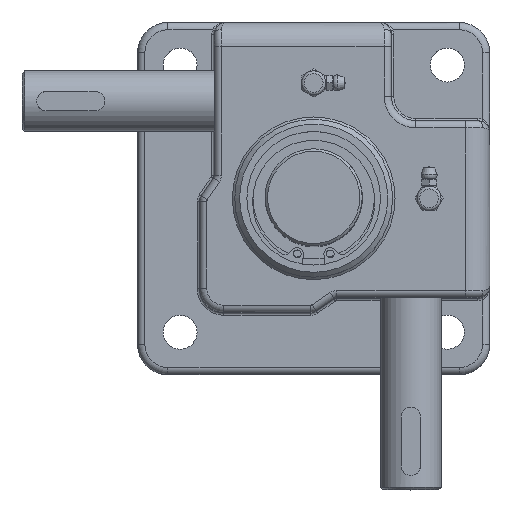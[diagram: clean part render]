
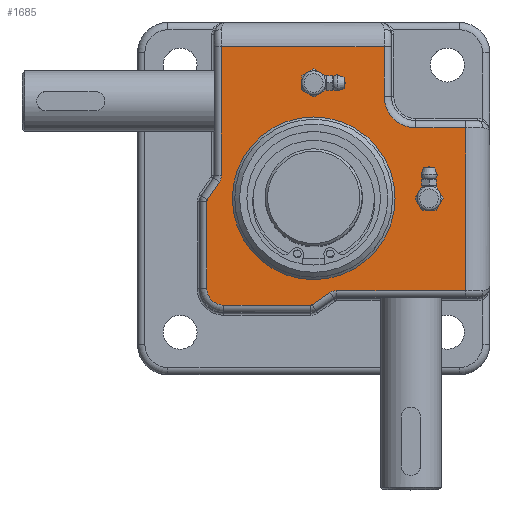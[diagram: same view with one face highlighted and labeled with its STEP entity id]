
A CAD part, top view. The second image highlights one B-rep face of the part: STEP entity #1685.
In plain terms, the highlighted planar face has unit normal (0, 0, 1).
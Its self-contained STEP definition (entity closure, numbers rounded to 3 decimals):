
#1685=ADVANCED_FACE('',(#4720,#4721,#4722,#4723),#4724,.T.);
#4720=FACE_OUTER_BOUND('',#9896,.T.);
#4721=FACE_BOUND('',#9897,.T.);
#4722=FACE_BOUND('',#9898,.T.);
#4723=FACE_BOUND('',#9899,.T.);
#4724=PLANE('',#9900);
#9896=EDGE_LOOP('',(#17753,#17754,#17755,#17756,#17757,#17758,#17759,#17760,#17761,#17762,#17763,#17764,#17765,#17766,#17767,#17768));
#9897=EDGE_LOOP('',(#17769));
#9898=EDGE_LOOP('',(#17770));
#9899=EDGE_LOOP('',(#17771));
#9900=AXIS2_PLACEMENT_3D('',#17772,#17773,#17774);
#17753=ORIENTED_EDGE('',*,*,#33164,.T.);
#17754=ORIENTED_EDGE('',*,*,#33552,.T.);
#17755=ORIENTED_EDGE('',*,*,#33797,.T.);
#17756=ORIENTED_EDGE('',*,*,#33858,.T.);
#17757=ORIENTED_EDGE('',*,*,#33859,.T.);
#17758=ORIENTED_EDGE('',*,*,#33686,.T.);
#17759=ORIENTED_EDGE('',*,*,#33860,.T.);
#17760=ORIENTED_EDGE('',*,*,#33587,.T.);
#17761=ORIENTED_EDGE('',*,*,#33065,.T.);
#17762=ORIENTED_EDGE('',*,*,#33584,.T.);
#17763=ORIENTED_EDGE('',*,*,#33693,.T.);
#17764=ORIENTED_EDGE('',*,*,#33069,.T.);
#17765=ORIENTED_EDGE('',*,*,#33861,.T.);
#17766=ORIENTED_EDGE('',*,*,#33753,.T.);
#17767=ORIENTED_EDGE('',*,*,#33808,.T.);
#17768=ORIENTED_EDGE('',*,*,#33862,.T.);
#17769=ORIENTED_EDGE('',*,*,#33389,.T.);
#17770=ORIENTED_EDGE('',*,*,#33370,.F.);
#17771=ORIENTED_EDGE('',*,*,#33369,.F.);
#17772=CARTESIAN_POINT('',(0.0,0.0,32.5));
#17773=DIRECTION('',(0.,0.,1.0));
#17774=DIRECTION('',(1.0,0.,0.));
#33065=EDGE_CURVE('',#39530,#39535,#39537,.T.);
#33069=EDGE_CURVE('',#39538,#39543,#39545,.T.);
#33164=EDGE_CURVE('',#39722,#39720,#39723,.T.);
#33369=EDGE_CURVE('',#40094,#40094,#40095,.T.);
#33370=EDGE_CURVE('',#40096,#40096,#40097,.T.);
#33389=EDGE_CURVE('',#40128,#40128,#40129,.T.);
#33552=EDGE_CURVE('',#39720,#40409,#40411,.T.);
#33584=EDGE_CURVE('',#39535,#40462,#40464,.T.);
#33587=EDGE_CURVE('',#40465,#39530,#40469,.T.);
#33686=EDGE_CURVE('',#40604,#40606,#40608,.T.);
#33693=EDGE_CURVE('',#40462,#39538,#40618,.T.);
#33753=EDGE_CURVE('',#40697,#40701,#40703,.T.);
#33797=EDGE_CURVE('',#40409,#40752,#40754,.T.);
#33808=EDGE_CURVE('',#40701,#40766,#40768,.T.);
#33858=EDGE_CURVE('',#40752,#40823,#40824,.T.);
#33859=EDGE_CURVE('',#40823,#40604,#40825,.T.);
#33860=EDGE_CURVE('',#40606,#40465,#40826,.T.);
#33861=EDGE_CURVE('',#39543,#40697,#40827,.T.);
#33862=EDGE_CURVE('',#40766,#39722,#40828,.T.);
#39530=VERTEX_POINT('',#50676);
#39535=VERTEX_POINT('',#50686);
#39537=CIRCLE('',#50697,1.0);
#39538=VERTEX_POINT('',#50698);
#39543=VERTEX_POINT('',#50704);
#39545=LINE('',#50711,#50712);
#39720=VERTEX_POINT('',#51101);
#39722=VERTEX_POINT('',#51103);
#39723=LINE('',#51104,#51105);
#40094=VERTEX_POINT('',#51952);
#40095=CIRCLE('',#51953,3.0);
#40096=VERTEX_POINT('',#51954);
#40097=CIRCLE('',#51955,3.0);
#40128=VERTEX_POINT('',#51990);
#40129=CIRCLE('',#51991,33.5);
#40409=VERTEX_POINT('',#52476);
#40411=LINE('',#52478,#52479);
#40462=VERTEX_POINT('',#52598);
#40464=LINE('',#52600,#52601);
#40465=VERTEX_POINT('',#52602);
#40469=LINE('',#52607,#52608);
#40604=VERTEX_POINT('',#52803);
#40606=VERTEX_POINT('',#52805);
#40608=LINE('',#52807,#52808);
#40618=CIRCLE('',#52822,7.0);
#40697=VERTEX_POINT('',#52948);
#40701=VERTEX_POINT('',#52962);
#40703=LINE('',#52964,#52965);
#40752=VERTEX_POINT('',#53034);
#40754=CIRCLE('',#53036,13.0);
#40766=VERTEX_POINT('',#53058);
#40768=CIRCLE('',#53060,5.0);
#40823=VERTEX_POINT('',#53203);
#40824=LINE('',#53204,#53205);
#40825=LINE('',#53206,#53207);
#40826=CIRCLE('',#53208,5.0);
#40827=CIRCLE('',#53209,1.0);
#40828=LINE('',#53210,#53211);
#50676=CARTESIAN_POINT('',(-43.829,-0.664,32.5));
#50686=CARTESIAN_POINT('',(-44.0,-1.223,32.5));
#50697=AXIS2_PLACEMENT_3D('',#66652,#66653,#66654);
#50698=CARTESIAN_POINT('',(-37.,-44.0,32.5));
#50704=CARTESIAN_POINT('',(-1.223,-44.0,32.5));
#50711=CARTESIAN_POINT('',(7.75,-44.0,32.5));
#50712=VECTOR('',#66659,1.0);
#51101=CARTESIAN_POINT('',(62.5,29.0,32.5));
#51103=CARTESIAN_POINT('',(62.5,-38.0,32.5));
#51104=CARTESIAN_POINT('',(62.5,6.2,32.5));
#51105=VECTOR('',#66807,1.0);
#51952=CARTESIAN_POINT('',(3.0,47.5,32.5));
#51953=AXIS2_PLACEMENT_3D('',#67187,#67188,#67189);
#51954=CARTESIAN_POINT('',(50.5,0.,32.5));
#51955=AXIS2_PLACEMENT_3D('',#67190,#67191,#67192);
#51990=CARTESIAN_POINT('',(33.5,0.,32.5));
#51991=AXIS2_PLACEMENT_3D('',#67239,#67240,#67241);
#52476=CARTESIAN_POINT('',(42.0,29.0,32.5));
#52478=CARTESIAN_POINT('',(7.75,29.0,32.5));
#52479=VECTOR('',#67562,1.0);
#52598=CARTESIAN_POINT('',(-44.0,-37.0,32.5));
#52600=CARTESIAN_POINT('',(-44.0,7.75,32.5));
#52601=VECTOR('',#67619,1.0);
#52602=CARTESIAN_POINT('',(-38.855,6.711,32.5));
#52607=CARTESIAN_POINT('',(-27.676,23.284,32.5));
#52608=VECTOR('',#67624,1.0);
#52803=CARTESIAN_POINT('',(-38.0,62.5,32.5));
#52805=CARTESIAN_POINT('',(-38.0,9.507,32.5));
#52807=CARTESIAN_POINT('',(-38.0,7.75,32.5));
#52808=VECTOR('',#67821,1.0);
#52822=AXIS2_PLACEMENT_3D('',#67832,#67833,#67834);
#52948=CARTESIAN_POINT('',(-0.664,-43.829,32.5));
#52962=CARTESIAN_POINT('',(6.711,-38.855,32.5));
#52964=CARTESIAN_POINT('',(23.284,-27.676,32.5));
#52965=VECTOR('',#67947,1.0);
#53034=CARTESIAN_POINT('',(29.0,42.,32.5));
#53036=AXIS2_PLACEMENT_3D('',#68037,#68038,#68039);
#53058=CARTESIAN_POINT('',(9.507,-38.0,32.5));
#53060=AXIS2_PLACEMENT_3D('',#68057,#68058,#68059);
#53203=CARTESIAN_POINT('',(29.0,62.5,32.5));
#53204=CARTESIAN_POINT('',(29.0,7.75,32.5));
#53205=VECTOR('',#68134,1.0);
#53206=CARTESIAN_POINT('',(0.2,62.5,32.5));
#53207=VECTOR('',#68135,1.0);
#53208=AXIS2_PLACEMENT_3D('',#68136,#68137,#68138);
#53209=AXIS2_PLACEMENT_3D('',#68139,#68140,#68141);
#53210=CARTESIAN_POINT('',(7.75,-38.0,32.5));
#53211=VECTOR('',#68142,1.0);
#66652=CARTESIAN_POINT('',(-43.0,-1.223,32.5));
#66653=DIRECTION('',(0.,0.,1.0));
#66654=DIRECTION('',(1.0,0.,0.));
#66659=DIRECTION('',(1.0,0.0,0.));
#66807=DIRECTION('',(0.0,1.0,0.));
#67187=CARTESIAN_POINT('',(0.0,47.5,32.5));
#67188=DIRECTION('',(0.,0.,1.0));
#67189=DIRECTION('',(1.0,0.,0.));
#67190=CARTESIAN_POINT('',(47.5,0.,32.5));
#67191=DIRECTION('',(0.,0.,1.0));
#67192=DIRECTION('',(1.0,0.,0.));
#67239=CARTESIAN_POINT('',(0.,0.,32.5));
#67240=DIRECTION('',(0.,0.,-1.0));
#67241=DIRECTION('',(1.0,0.,0.));
#67562=DIRECTION('',(-1.0,0.0,0.));
#67619=DIRECTION('',(0.0,-1.0,0.));
#67624=DIRECTION('',(-0.559,-0.829,0.));
#67821=DIRECTION('',(0.0,-1.0,0.));
#67832=CARTESIAN_POINT('',(-37.0,-37.0,32.5));
#67833=DIRECTION('',(0.0,0.0,1.0));
#67834=DIRECTION('',(1.0,0.0,0.0));
#67947=DIRECTION('',(0.829,0.559,0.));
#68037=CARTESIAN_POINT('',(42.0,42.0,32.5));
#68038=DIRECTION('',(0.,0.,-1.0));
#68039=DIRECTION('',(1.0,0.,0.));
#68057=CARTESIAN_POINT('',(9.507,-43.0,32.5));
#68058=DIRECTION('',(0.0,0.0,-1.0));
#68059=DIRECTION('',(1.0,0.0,0.0));
#68134=DIRECTION('',(0.0,1.0,0.));
#68135=DIRECTION('',(-1.0,0.0,0.));
#68136=CARTESIAN_POINT('',(-43.0,9.507,32.5));
#68137=DIRECTION('',(0.,0.,-1.0));
#68138=DIRECTION('',(1.0,0.,0.));
#68139=CARTESIAN_POINT('',(-1.223,-43.0,32.5));
#68140=DIRECTION('',(0.,0.,1.0));
#68141=DIRECTION('',(1.0,0.,0.));
#68142=DIRECTION('',(1.0,0.0,0.));
